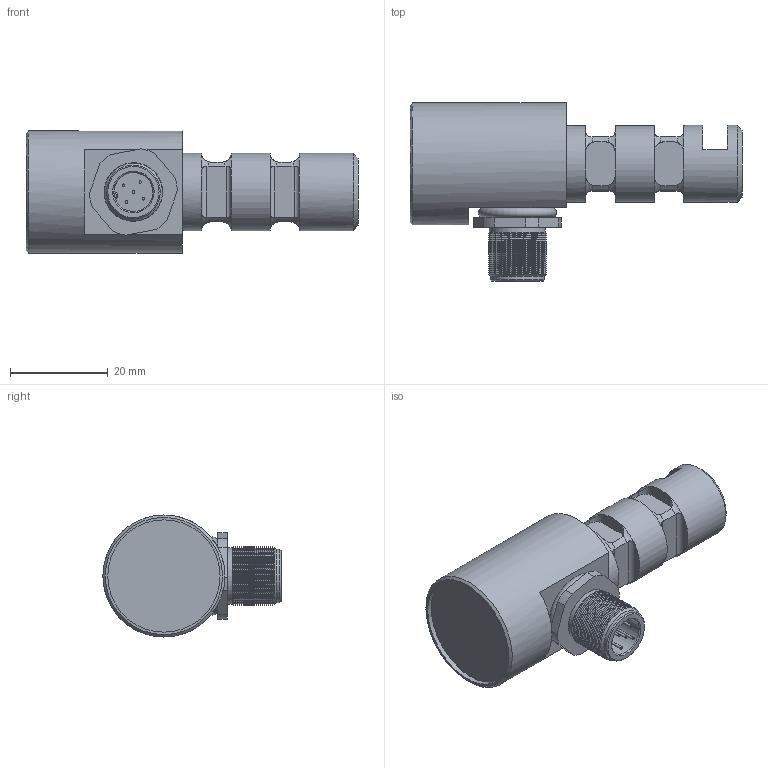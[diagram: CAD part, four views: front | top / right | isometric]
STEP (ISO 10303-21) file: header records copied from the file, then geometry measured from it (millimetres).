
FILE_DESCRIPTION(/* description */ ('Alibre Inc.'),/* implementation_level */ '2;1');
FILE_NAME(/* name */ 'export-83F7F952-6945-4362-9FC5-91C55E95345F',/* time_stamp */ '2021-02-16T09:36:25+01:00',/* author */ (''),/* organization */ (''),/* preprocessor_version */ 'ST-DEVELOPER v17',/* originating_system */ 'Alibre',/* authorisation */ '');
FILE_SCHEMA (('CONFIG_CONTROL_DESIGN'));
Length unit declared in the file: millimetre
Bounding box: 68 x 36.5 x 25 mm (x, y, z)
Surface area: 159441.9 mm2
Topology: 7 solids, 8 shells, 259 faces, 573 edges, 339 vertices
Faces by surface type: cylinder 90, plane 80, cone 71, torus 18
Full cylindrical faces by diameter (mm): 0.5 x10, 7.5 x1, 8 x2, 10 x1, 11 x1, 11.5 x1, 12 x21, 13 x2, 14.5 x1, 15.8 x3, 23 x1, 25 x1
Entity records: 6691 total; most frequent: CARTESIAN_POINT 1902, ORIENTED_EDGE 932, DIRECTION 749, EDGE_CURVE 460, EDGE_LOOP 377, FACE_BOUND 377, AXIS2_PLACEMENT_3D 347, VERTEX_POINT 323
